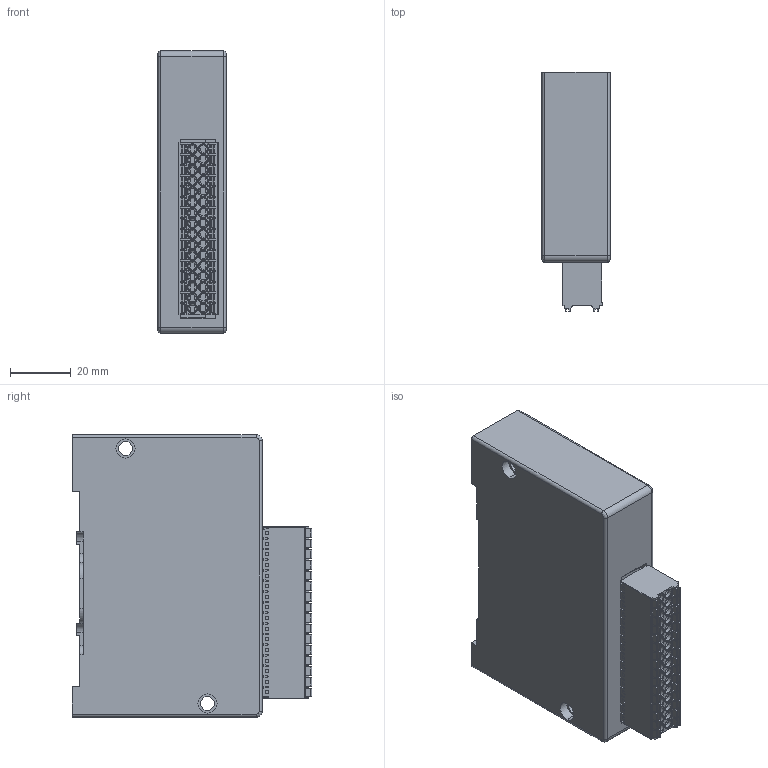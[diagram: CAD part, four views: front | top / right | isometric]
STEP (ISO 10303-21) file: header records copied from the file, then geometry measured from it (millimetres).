
FILE_DESCRIPTION( (''), '2;1');
FILE_NAME ('YS8-D16N.stp','2022-12-01T16:49:35',(''),(''),'spGate 12.6.6','','');
FILE_SCHEMA (('AUTOMOTIVE_DESIGN'));
Length unit declared in the file: millimetre
Bounding box: 22.5 x 78.8 x 93 mm (x, y, z)
Volume: 133674.6 mm3; surface area: 26231.1 mm2
Topology: 1 solids, 1 shells, 1735 faces, 4540 edges, 2942 vertices
Faces by surface type: plane 1075, cylinder 524, bspline 136
Entity records: 92617 total; most frequent: CARTESIAN_POINT 13121, ORIENTED_EDGE 9080, DIRECTION 8860, COLOUR_RGB 6276, PRESENTATION_STYLE_ASSIGNMENT 6276, STYLED_ITEM 6276, EDGE_CURVE 4540, DRAUGHTING_PRE_DEFINED_CURVE_FONT 4540
